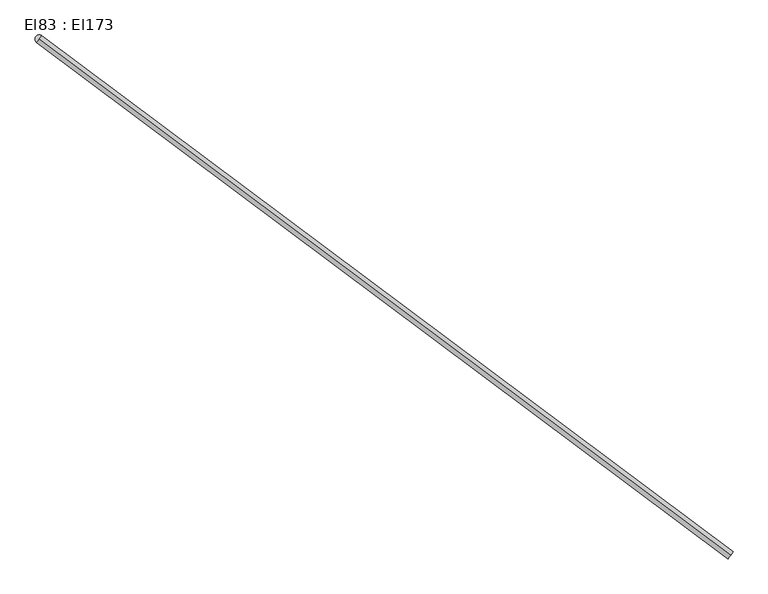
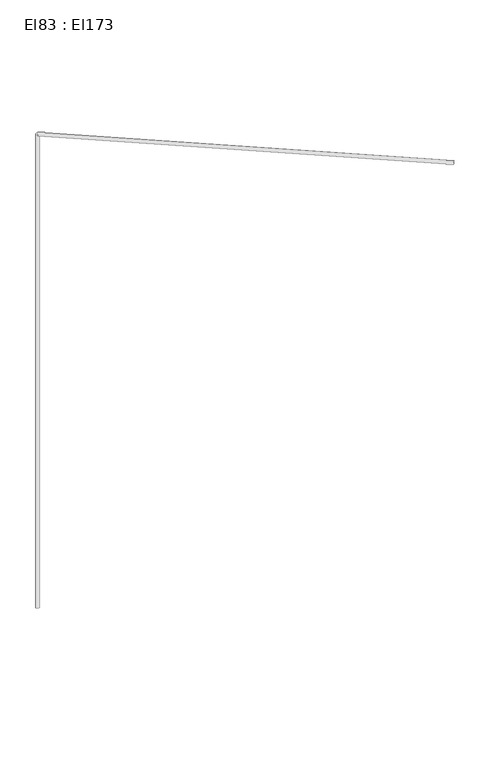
"""IFC4 building model written with IfcOpenShell, lengths in millimetres: cable carrier segment geometry, El83 : El173."""

from ifc_helpers import new_model, si_unit, point, frame, frame_2d, origin, place, context, project, spatial, circle_curve, trimmed, segment, composite_curve, outline, extrude, source, transform, mapped, element, save


def el83_el173_6038ebd6(model_context):
    return source(origin(), model_context, "Body", "SweptSolid", [
        extrude(outline(composite_curve([segment(trimmed(circle_curve(frame_2d((2474.7296511, 25676.0031745)), 9.5), [point((2465.2296511, 25676.0031745))], [point((2484.2296511, 25676.0031745))], False, "CARTESIAN"), True, "CONTINUOUS"), segment(trimmed(circle_curve(frame_2d((2474.7296511, 25676.0031745)), 9.5), [point((2484.2296511, 25676.0031745))], [point((2465.2296511, 25676.0031745))], False, "CARTESIAN"), True, "CONTINUOUS")], self_intersect=False)), frame((0.0, 0.0, 1830.0), z_axis=(0.0, 0.0, 1.0), x_axis=(1.0, 0.0, 0.0)), (0.0, 0.0, 1.0), 2620.0),
        extrude(outline(composite_curve([segment(trimmed(circle_curve(frame_2d((0.0, -9.5)), 9.5), [point((0.0, -19.0))], [point((0.0, 0.0))], False, "CARTESIAN"), True, "CONTINUOUS"), segment(trimmed(circle_curve(frame_2d((0.0, -9.5)), 9.5), [point((0.0, 0.0))], [point((0.0, -19.0))], False, "CARTESIAN"), True, "CONTINUOUS")], self_intersect=False)), frame((3998.7926511, 24537.1311745, 4459.5), z_axis=(-0.8010518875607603, 0.5985949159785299, 0.0), x_axis=(-0.5985949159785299, -0.8010518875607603, 0.0)), (0.0, 0.0, 1.0), 1902.58),
    ])


if __name__ == "__main__":
    model = new_model("IFC4")
    model_context = context("Model", 3, world=origin())
    ifc_project = project(units=[si_unit("LENGTHUNIT", "METRE", prefix="MILLI")], contexts=[model_context])
    site = spatial("IfcSite", under=ifc_project)
    building = spatial("IfcBuilding", under=site)
    placement = place(None, origin())
    el83_el173_shape = el83_el173_6038ebd6(model_context)
    element("IfcCableCarrierSegment", 1, ObjectType="El83 : El173", at=placement, inside=building, context=model_context, shape_type="MappedRepresentation", body=[
        mapped(el83_el173_shape, transform((0.0, 0.0, 0.0), x_axis=(1.0, 0.0, 0.0), y_axis=(0.0, 1.0, 0.0), z_axis=(0.0, 0.0, 1.0))),
    ])
    save(model, "model.ifc")
